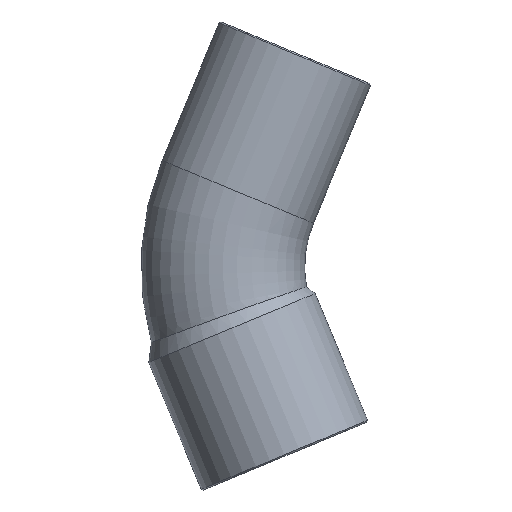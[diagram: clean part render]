
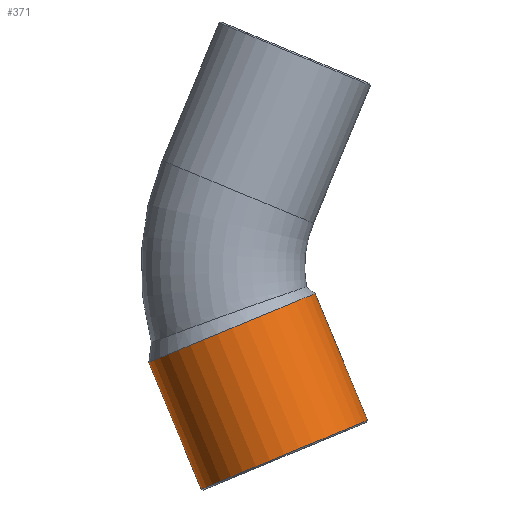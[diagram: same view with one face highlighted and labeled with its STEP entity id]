
A CAD part, front view. The second image highlights one B-rep face of the part: STEP entity #371.
In plain terms, the highlighted cylindrical face has radius 6.6 mm (diameter 13.2 mm), a partial arc.
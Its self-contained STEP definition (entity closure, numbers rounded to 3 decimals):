
#178=CARTESIAN_POINT('',(-15.397,0.,-6.997));
#179=VERTEX_POINT('',#178);
#186=CARTESIAN_POINT('',(-3.202,0.,-1.945));
#187=VERTEX_POINT('',#186);
#188=CARTESIAN_POINT('',(-9.3,0.,-4.471));
#189=DIRECTION('',(-0.383,0.,0.924));
#190=DIRECTION('',(0.924,0.0,0.383));
#191=AXIS2_PLACEMENT_3D('',#188,#189,#190);
#192=CIRCLE('',#191,6.6);
#193=EDGE_CURVE('',#179,#187,#192,.T.);
#340=CARTESIAN_POINT('',(-9.238,0.,-4.619));
#341=DIRECTION('',(0.383,0.,-0.924));
#342=DIRECTION('',(0.924,0.0,0.383));
#343=AXIS2_PLACEMENT_3D('',#340,#341,#342);
#344=CYLINDRICAL_SURFACE('',#343,6.6);
#345=CARTESIAN_POINT('',(0.648,0.,-11.24));
#346=VERTEX_POINT('',#345);
#347=CARTESIAN_POINT('',(-3.202,0.,-1.945));
#348=DIRECTION('',(0.383,0.,-0.924));
#349=VECTOR('',#348,10.061);
#350=LINE('',#347,#349);
#351=EDGE_CURVE('',#187,#346,#350,.T.);
#352=ORIENTED_EDGE('',*,*,#351,.F.);
#353=ORIENTED_EDGE('',*,*,#193,.F.);
#354=CARTESIAN_POINT('',(-11.547,0.,-16.292));
#355=VERTEX_POINT('',#354);
#356=CARTESIAN_POINT('',(-11.547,0.,-16.292));
#357=DIRECTION('',(-0.383,0.,0.924));
#358=VECTOR('',#357,10.061);
#359=LINE('',#356,#358);
#360=EDGE_CURVE('',#355,#179,#359,.T.);
#361=ORIENTED_EDGE('',*,*,#360,.F.);
#362=CARTESIAN_POINT('',(-5.449,0.,-13.766));
#363=DIRECTION('',(0.383,0.,-0.924));
#364=DIRECTION('',(0.924,0.0,0.383));
#365=AXIS2_PLACEMENT_3D('',#362,#363,#364);
#366=CIRCLE('',#365,6.6);
#367=EDGE_CURVE('',#346,#355,#366,.T.);
#368=ORIENTED_EDGE('',*,*,#367,.F.);
#369=EDGE_LOOP('',(#352,#353,#361,#368));
#370=FACE_OUTER_BOUND('',#369,.T.);
#371=ADVANCED_FACE('',(#370),#344,.T.);
